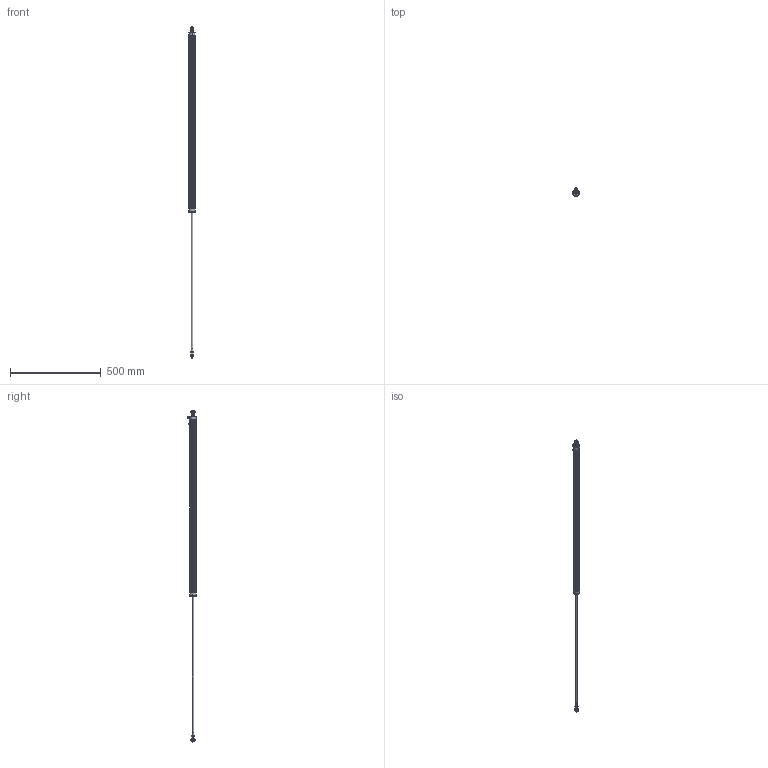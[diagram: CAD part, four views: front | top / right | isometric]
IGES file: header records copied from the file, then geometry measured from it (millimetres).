
Start section: SolidWorks IGES file using analytic representation for surfaces
Global section: file name: I:\Zeichnungen_EK-VM\ZUR BEARBEITUNG\neu_sz\LWX-001\housing\0750.IGS; native system: SolidWorks 2009; preprocessor: SolidWorks 2009; author: salzinger; date: 090128.091852; units: millimetre
Bounding box: 35 x 45.1 x 1831.6 mm (x, y, z)
Volume: 1015568 mm3; surface area: 189733.5 mm2
Topology: 30 solids, 30 shells, 1046 faces, 5566 edges, 7235 vertices
Faces by surface type: revolution 652, plane 324, bspline 70
